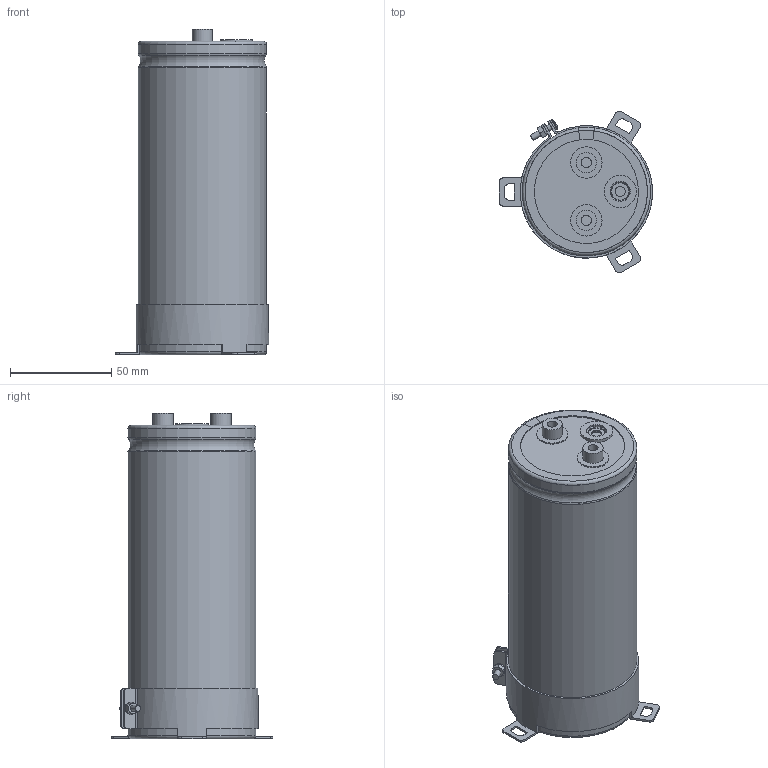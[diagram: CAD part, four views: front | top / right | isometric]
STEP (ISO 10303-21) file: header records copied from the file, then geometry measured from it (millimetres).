
FILE_DESCRIPTION(/* description */ (''),/* implementation_level */ '2;1');
FILE_NAME(/* name */ '63.5x155_Screw.stp',/* time_stamp */ '2017-09-15T19:47:53+09:00',/* author */ (''),/* organization */ (''),/* preprocessor_version */ 'ST-DEVELOPER v16',/* originating_system */ 'SIEMENS PLM Software NX 11.0',/* authorisation */ '');
FILE_SCHEMA (('AUTOMOTIVE_DESIGN { 1 0 10303 214 3 1 1 1 }'));
Length unit declared in the file: millimetre
Products named in the file (1): 63.5x155_Screw
Bounding box: 75.75 x 80.01 x 161 mm (x, y, z)
Volume: 493115.8 mm3; surface area: 113503 mm2
Topology: 9 solids, 9 shells, 259 faces, 644 edges, 415 vertices
Faces by surface type: plane 112, cylinder 66, torus 49, cone 31, sphere 1
Full cylindrical faces by diameter (mm): 3 x5, 5 x6, 5.5 x2, 10 x4, 15.5 x2, 16 x1, 62.3 x2
Entity records: 8411 total; most frequent: CARTESIAN_POINT 2059, DIRECTION 1296, ORIENTED_EDGE 1214, EDGE_CURVE 607, AXIS2_PLACEMENT_3D 541, VERTEX_POINT 408, EDGE_LOOP 317, CIRCLE 281
